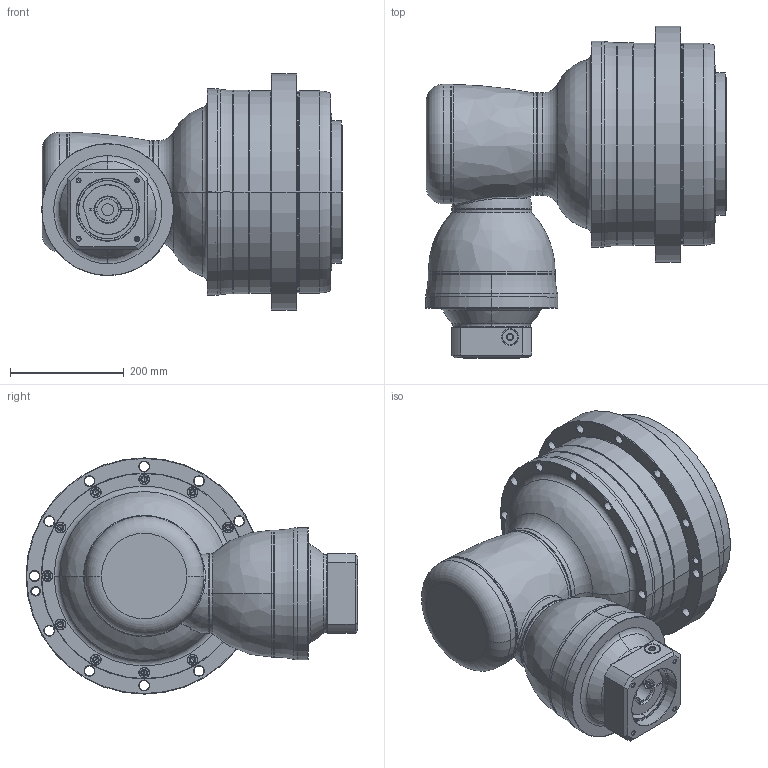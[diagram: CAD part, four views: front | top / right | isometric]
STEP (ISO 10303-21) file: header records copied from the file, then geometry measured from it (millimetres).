
FILE_DESCRIPTION((''),'2;1');
FILE_NAME('AHK355_4ST_38-P0409900101_ASM','2016-12-08T',('d01943'),(''),'PRO/ENGINEER BY PARAMETRIC TECHNOLOGY CORPORATION, 2008410','PRO/ENGINEER BY PARAMETRIC TECHNOLOGY CORPORATION, 2008410','');
FILE_SCHEMA(('CONFIG_CONTROL_DESIGN'));
Length unit declared in the file: millimetre
Products named in the file (12): P1008600002; P1821100001; P0276100003; P0357100003; P1315600001; P1007600001; P1317600401; P0409900101; P0503900012; P0912504201; 21711422019; AHK355_4ST_38-P0409900101_ASM
Assembly tree (11 placements, depth 2):
  AHK355_4ST_38-P0409900101_ASM
    P1008600002
    P1821100001
    P0276100003
    P0357100003
    P1315600001
    P1007600001
    P1317600401
    P0409900101
    P0503900012
    P0912504201
    21711422019
Bounding box: 528 x 583 x 415 mm (x, y, z)
Volume: 37006847 mm3; surface area: 1806373.5 mm2
Topology: 12 solids, 12 shells, 1025 faces, 2293 edges, 1315 vertices
Faces by surface type: cylinder 368, cone 366, plane 126, torus 126, bspline 37, sphere 2
Entity records: 34554 total; most frequent: CARTESIAN_POINT 11226, DIRECTION 5376, ORIENTED_EDGE 4410, AXIS2_PLACEMENT_3D 2288, EDGE_CURVE 2205, VERTEX_POINT 1315, CIRCLE 1277, EDGE_LOOP 1236
